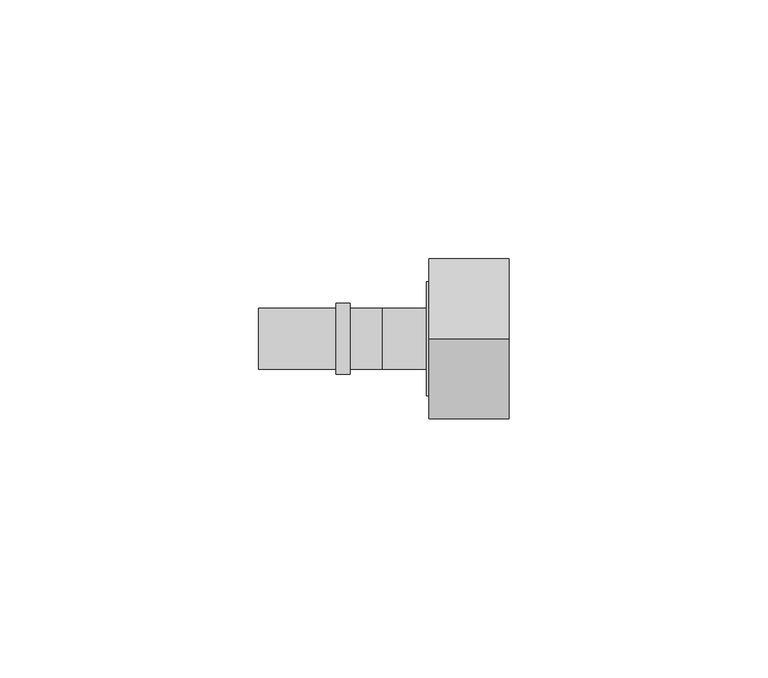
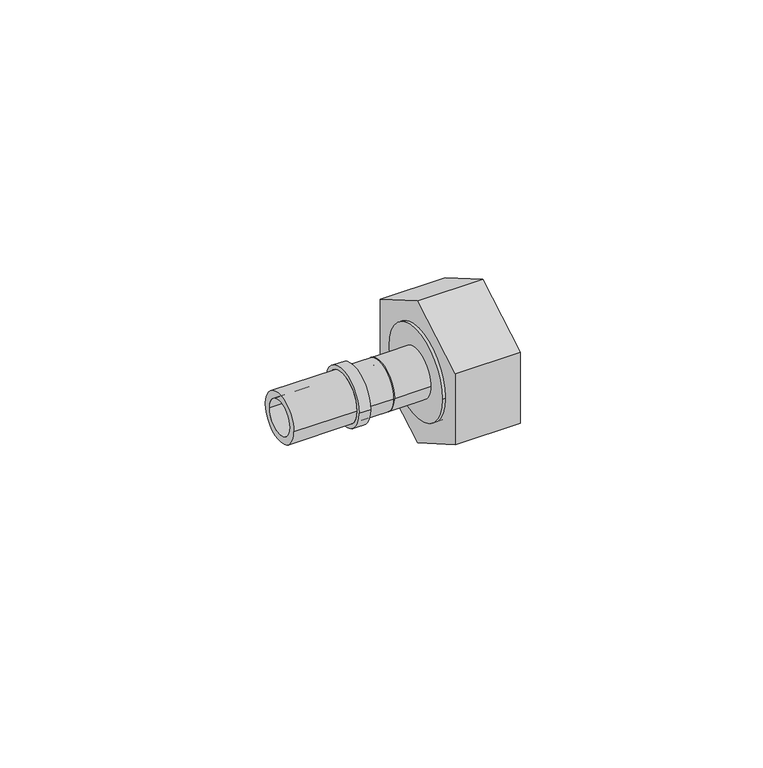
"""IFC4 building model written with IfcOpenShell, lengths in millimetres: pipe fitting geometry, FASTLOC_Adapter with union nut LX : FSL A union nut PL."""

from ifc_helpers import new_model, si_unit, point, frame, origin, origin_2d, place, context, project, spatial, polyline, circle_curve, trimmed, segment, composite_curve, outline, extrude, source, transform, mapped, element, save
from ifc_brep_helpers import plane_surface, cylinder_surface, revolved_surface, advanced_brep


def pipe_fitting_f7503da1(model_context):
    return source(origin(), model_context, "Body", "SolidModel", [
        advanced_brep(
        [(12.0, 5.9, 0.0), (12.0, -5.9, 0.0), (0.0, -5.9, 0.0), (0.0, 5.9, 0.0), (14.0, 10.0, 0.0), (14.0, -10.0, 0.0), (12.0, -10.0, 0.0), (12.0, 10.0, 0.0), (1.4730817, 4.15, 0.0), (1.4730817, -4.15, 0.0), (14.0, -4.15, 0.0), (14.0, 4.15, 0.0), (0.0, 1.9764556, 0.0), (0.0, -1.9764556, 0.0), (1.4730817, -1.9764556, 0.0), (1.4730817, 1.9764556, 0.0)],
        [
            (0, 1, circle_curve(frame((12.0, 0.0, 0.0), z_axis=(-1.0, 0.0, 0.0), x_axis=(0.0, -1.0, 0.0)), 5.9)),
            (1, 2),
            (2, 3, circle_curve(frame((0.0, 0.0, 0.0), z_axis=(1.0, 0.0, 0.0), x_axis=(0.0, -1.0, 0.0)), 5.9)),
            (3, 0),
            (4, 5, circle_curve(frame((14.0, 0.0, 0.0), z_axis=(-1.0, 0.0, 0.0), x_axis=(0.0, -1.0, 0.0)), 10.0)),
            (5, 6),
            (6, 7, circle_curve(frame((12.0, 0.0, 0.0), z_axis=(1.0, 0.0, 0.0), x_axis=(0.0, -1.0, 0.0)), 10.0)),
            (7, 4),
            (8, 9, circle_curve(frame((1.4730817, 0.0, 0.0), z_axis=(-1.0, 0.0, 0.0), x_axis=(0.0, -1.0, 0.0)), 4.15)),
            (9, 10),
            (10, 11, circle_curve(frame((14.0, 0.0, 0.0), z_axis=(1.0, 0.0, 0.0), x_axis=(0.0, -1.0, 0.0)), 4.15)),
            (11, 8),
            (12, 13, circle_curve(frame((0.0, 0.0, 0.0), z_axis=(-1.0, 0.0, 0.0), x_axis=(0.0, -1.0, 0.0)), 1.9764556)),
            (13, 14),
            (14, 15, circle_curve(frame((1.4730817, 0.0, 0.0), z_axis=(1.0, 0.0, 0.0), x_axis=(0.0, -1.0, 0.0)), 1.9764556)),
            (15, 12),
            (2, 3, circle_curve(frame((0.0, 0.0, 0.0), z_axis=(-1.0, 0.0, 0.0), x_axis=(0.0, 1.0, 0.0)), 5.9)),
            (12, 13, circle_curve(frame((0.0, 0.0, 0.0), z_axis=(1.0, 0.0, 0.0), x_axis=(0.0, 1.0, 0.0)), 1.9764556)),
            (1, 0, circle_curve(frame((12.0, 0.0, 0.0), z_axis=(-1.0, 0.0, 0.0), x_axis=(0.0, 1.0, 0.0)), 5.9)),
            (6, 7, circle_curve(frame((12.0, 0.0, 0.0), z_axis=(-1.0, 0.0, 0.0), x_axis=(0.0, 1.0, 0.0)), 10.0)),
            (5, 4, circle_curve(frame((14.0, 0.0, 0.0), z_axis=(-1.0, 0.0, 0.0), x_axis=(0.0, 1.0, 0.0)), 10.0)),
            (10, 11, circle_curve(frame((14.0, 0.0, 0.0), z_axis=(-1.0, 0.0, 0.0), x_axis=(0.0, 1.0, 0.0)), 4.15)),
            (9, 8, circle_curve(frame((1.4730817, 0.0, 0.0), z_axis=(-1.0, 0.0, 0.0), x_axis=(0.0, 1.0, 0.0)), 4.15)),
            (14, 15, circle_curve(frame((1.4730817, 0.0, 0.0), z_axis=(-1.0, 0.0, 0.0), x_axis=(0.0, 1.0, 0.0)), 1.9764556)),
        ],
        [
            cylinder_surface(frame((0.0, 0.0, 0.0), z_axis=(1.0, 0.0, 0.0), x_axis=(0.0, -1.0, 0.0)), 5.9),
            cylinder_surface(frame((0.0, 0.0, 0.0), z_axis=(1.0, 0.0, 0.0), x_axis=(0.0, -1.0, 0.0)), 10.0),
            revolved_surface(polyline([(14.0, -4.15, 0.0), (1.4730817, -4.15, 0.0)]), (0.0, 0.0, 0.0), (1.0, 0.0, 0.0)),
            revolved_surface(polyline([(1.4730817, -1.9764556, 0.0), (0.0, -1.9764556, 0.0)]), (0.0, 0.0, 0.0), (1.0, 0.0, 0.0)),
            plane_surface(frame((0.0, 0.0, 0.0), z_axis=(-1.0, 0.0, 0.0), x_axis=(0.0, 1.0, 0.0))),
            cylinder_surface(frame((0.0, 0.0, 0.0), z_axis=(1.0, 0.0, 0.0), x_axis=(0.0, 1.0, 0.0)), 5.9),
            plane_surface(frame((12.0, 0.0, 0.0), z_axis=(-1.0, 0.0, 0.0), x_axis=(0.0, 1.0, 0.0))),
            cylinder_surface(frame((0.0, 0.0, 0.0), z_axis=(1.0, 0.0, 0.0), x_axis=(0.0, 1.0, 0.0)), 10.0),
            plane_surface(frame((14.0, 0.0, 0.0), z_axis=(1.0, 0.0, 0.0), x_axis=(0.0, 1.0, 0.0))),
            revolved_surface(polyline([(14.0, 4.15, 0.0), (1.4730817, 4.15, 0.0)]), (0.0, 0.0, 0.0), (1.0, 0.0, 0.0)),
            plane_surface(frame((1.4730817, 0.0, 0.0), z_axis=(1.0, 0.0, 0.0), x_axis=(0.0, 1.0, 0.0))),
            revolved_surface(polyline([(1.4730817, 1.9764556, 0.0), (0.0, 1.9764556, 0.0)]), (0.0, 0.0, 0.0), (1.0, 0.0, 0.0)),
        ],
        [
            (0, [[1, 2, 3, 4]]),
            (1, [[5, 6, 7, 8]]),
            (2, [[9, 10, 11, 12]]),
            (3, [[13, 14, 15, 16]]),
            (4, [[17, -3], [18, -13]]),
            (5, [[19, -4, -17, -2]]),
            (6, [[20, -7], [-19, -1]]),
            (7, [[21, -8, -20, -6]]),
            (8, [[-21, -5], [22, -11]]),
            (9, [[23, -12, -22, -10]]),
            (10, [[-23, -9], [24, -15]]),
            (11, [[-18, -16, -24, -14]]),
        ],
    ),
        advanced_brep(
        [(24.5, 11.05, 0.0), (24.5, -11.05, 0.0), (8.5, -11.05, 0.0), (8.5, 11.05, 0.0), (12.0, 8.15, 0.0), (12.0, -8.15, 0.0), (24.5, -8.15, 0.0), (24.5, 8.15, 0.0), (8.5, 4.65, 0.0), (8.5, -4.65, 0.0), (12.0, -4.65, 0.0), (12.0, 4.65, 0.0)],
        [
            (0, 1, circle_curve(frame((24.5, 0.0, 0.0), z_axis=(-1.0, 0.0, 0.0), x_axis=(0.0, -1.0, 0.0)), 11.05)),
            (1, 2),
            (2, 3, circle_curve(frame((8.5, 0.0, 0.0), z_axis=(1.0, 0.0, 0.0), x_axis=(0.0, -1.0, 0.0)), 11.05)),
            (3, 0),
            (4, 5, circle_curve(frame((12.0, 0.0, 0.0), z_axis=(-1.0, 0.0, 0.0), x_axis=(0.0, -1.0, 0.0)), 8.15)),
            (5, 6),
            (6, 7, circle_curve(frame((24.5, 0.0, 0.0), z_axis=(1.0, 0.0, 0.0), x_axis=(0.0, -1.0, 0.0)), 8.15)),
            (7, 4),
            (8, 9, circle_curve(frame((8.5, 0.0, 0.0), z_axis=(-1.0, 0.0, 0.0), x_axis=(0.0, -1.0, 0.0)), 4.65)),
            (9, 10),
            (10, 11, circle_curve(frame((12.0, 0.0, 0.0), z_axis=(1.0, 0.0, 0.0), x_axis=(0.0, -1.0, 0.0)), 4.65)),
            (11, 8),
            (1, 0, circle_curve(frame((24.5, 0.0, 0.0), z_axis=(-1.0, 0.0, 0.0), x_axis=(0.0, 1.0, 0.0)), 11.05)),
            (3, 2, circle_curve(frame((8.5, 0.0, 0.0), z_axis=(1.0, 0.0, 0.0), x_axis=(0.0, 1.0, 0.0)), 11.05)),
            (6, 7, circle_curve(frame((24.5, 0.0, 0.0), z_axis=(-1.0, 0.0, 0.0), x_axis=(0.0, 1.0, 0.0)), 8.15)),
            (5, 4, circle_curve(frame((12.0, 0.0, 0.0), z_axis=(-1.0, 0.0, 0.0), x_axis=(0.0, 1.0, 0.0)), 8.15)),
            (10, 11, circle_curve(frame((12.0, 0.0, 0.0), z_axis=(-1.0, 0.0, 0.0), x_axis=(0.0, 1.0, 0.0)), 4.65)),
            (9, 8, circle_curve(frame((8.5, 0.0, 0.0), z_axis=(-1.0, 0.0, 0.0), x_axis=(0.0, 1.0, 0.0)), 4.65)),
        ],
        [
            cylinder_surface(frame((0.0, 0.0, 0.0), z_axis=(1.0, 0.0, 0.0), x_axis=(0.0, -1.0, 0.0)), 11.05),
            revolved_surface(polyline([(24.5, -8.15, 0.0), (12.0, -8.15, 0.0)]), (0.0, 0.0, 0.0), (1.0, 0.0, 0.0)),
            revolved_surface(polyline([(12.0, -4.65, 0.0), (8.5, -4.65, 0.0)]), (0.0, 0.0, 0.0), (1.0, 0.0, 0.0)),
            cylinder_surface(frame((0.0, 0.0, 0.0), z_axis=(1.0, 0.0, 0.0), x_axis=(0.0, 1.0, 0.0)), 11.05),
            plane_surface(frame((24.5, 0.0, 0.0), z_axis=(1.0, 0.0, 0.0), x_axis=(0.0, 1.0, 0.0))),
            revolved_surface(polyline([(24.5, 8.15, 0.0), (12.0, 8.15, 0.0)]), (0.0, 0.0, 0.0), (1.0, 0.0, 0.0)),
            plane_surface(frame((12.0, 0.0, 0.0), z_axis=(1.0, 0.0, 0.0), x_axis=(0.0, 1.0, 0.0))),
            revolved_surface(polyline([(12.0, 4.65, 0.0), (8.5, 4.65, 0.0)]), (0.0, 0.0, 0.0), (1.0, 0.0, 0.0)),
            plane_surface(frame((8.5, 0.0, 0.0), z_axis=(-1.0, 0.0, 0.0), x_axis=(0.0, 1.0, 0.0))),
        ],
        [
            (0, [[1, 2, 3, 4]]),
            (1, [[5, 6, 7, 8]]),
            (2, [[9, 10, 11, 12]]),
            (3, [[13, -4, 14, -2]]),
            (4, [[-13, -1], [15, -7]]),
            (5, [[16, -8, -15, -6]]),
            (6, [[-16, -5], [17, -11]]),
            (7, [[18, -12, -17, -10]]),
            (8, [[-14, -3], [-18, -9]]),
        ],
    ),
        extrude(outline(polyline([(0.0, -17.8978583), (-15.5, -8.9489292), (-15.5, 8.9489292), (0.0, 17.8978583), (15.5, 8.9489292), (15.5, -8.9489292), (0.0, -17.8978583)]), holes=[composite_curve([segment(trimmed(circle_curve(origin_2d(), 8.15), [point((-8.15, 0.0))], [point((8.15, 0.0))], True, "CARTESIAN"), True, "CONTINUOUS"), segment(trimmed(circle_curve(origin_2d(), 8.15), [point((8.15, 0.0))], [point((-8.15, 0.0))], True, "CARTESIAN"), True, "CONTINUOUS")], self_intersect=False)]), frame((9.0, 0.0, 0.0), z_axis=(1.0, 0.0, 0.0), x_axis=(0.0, 1.0, 0.0)), (0.0, 0.0, 1.0), 15.5),
        advanced_brep(
        [(-9.0, 5.9, 0.0), (-9.0, -5.9, 0.0), (-24.0, -5.9, 0.0), (-24.0, 5.9, 0.0), (-6.3, 6.9, 0.0), (-6.3, -6.9, 0.0), (-9.0, -6.9, 0.0), (-9.0, 6.9, 0.0), (0.0, 5.9, 0.0), (0.0, -5.9, 0.0), (-6.3, -5.9, 0.0), (-6.3, 5.9, 0.0), (-24.0, 4.15, 0.0), (-24.0, -4.15, 0.0), (0.0, -4.15, 0.0), (0.0, 4.15, 0.0)],
        [
            (0, 1, circle_curve(frame((-9.0, 0.0, 0.0), z_axis=(-1.0, 0.0, 0.0), x_axis=(0.0, -1.0, 0.0)), 5.9)),
            (1, 2),
            (2, 3, circle_curve(frame((-24.0, 0.0, 0.0), z_axis=(1.0, 0.0, 0.0), x_axis=(0.0, -1.0, 0.0)), 5.9)),
            (3, 0),
            (4, 5, circle_curve(frame((-6.3, 0.0, 0.0), z_axis=(-1.0, 0.0, 0.0), x_axis=(0.0, -1.0, 0.0)), 6.9)),
            (5, 6),
            (6, 7, circle_curve(frame((-9.0, 0.0, 0.0), z_axis=(1.0, 0.0, 0.0), x_axis=(0.0, -1.0, 0.0)), 6.9)),
            (7, 4),
            (8, 9, circle_curve(frame((0.0, 0.0, 0.0), z_axis=(-1.0, 0.0, 0.0), x_axis=(0.0, -1.0, 0.0)), 5.9)),
            (9, 10),
            (10, 11, circle_curve(frame((-6.3, 0.0, 0.0), z_axis=(1.0, 0.0, 0.0), x_axis=(0.0, -1.0, 0.0)), 5.9)),
            (11, 8),
            (12, 13, circle_curve(frame((-24.0, 0.0, 0.0), z_axis=(-1.0, 0.0, 0.0), x_axis=(0.0, -1.0, 0.0)), 4.15)),
            (13, 14),
            (14, 15, circle_curve(frame((0.0, 0.0, 0.0), z_axis=(1.0, 0.0, 0.0), x_axis=(0.0, -1.0, 0.0)), 4.15)),
            (15, 12),
            (2, 3, circle_curve(frame((-24.0, 0.0, 0.0), z_axis=(-1.0, 0.0, 0.0), x_axis=(0.0, 1.0, 0.0)), 5.9)),
            (12, 13, circle_curve(frame((-24.0, 0.0, 0.0), z_axis=(1.0, 0.0, 0.0), x_axis=(0.0, 1.0, 0.0)), 4.15)),
            (1, 0, circle_curve(frame((-9.0, 0.0, 0.0), z_axis=(-1.0, 0.0, 0.0), x_axis=(0.0, 1.0, 0.0)), 5.9)),
            (6, 7, circle_curve(frame((-9.0, 0.0, 0.0), z_axis=(-1.0, 0.0, 0.0), x_axis=(0.0, 1.0, 0.0)), 6.9)),
            (5, 4, circle_curve(frame((-6.3, 0.0, 0.0), z_axis=(-1.0, 0.0, 0.0), x_axis=(0.0, 1.0, 0.0)), 6.9)),
            (10, 11, circle_curve(frame((-6.3, 0.0, 0.0), z_axis=(-1.0, 0.0, 0.0), x_axis=(0.0, 1.0, 0.0)), 5.9)),
            (9, 8, circle_curve(frame((0.0, 0.0, 0.0), z_axis=(-1.0, 0.0, 0.0), x_axis=(0.0, 1.0, 0.0)), 5.9)),
            (14, 15, circle_curve(frame((0.0, 0.0, 0.0), z_axis=(-1.0, 0.0, 0.0), x_axis=(0.0, 1.0, 0.0)), 4.15)),
        ],
        [
            cylinder_surface(frame((0.0, 0.0, 0.0), z_axis=(1.0, 0.0, 0.0), x_axis=(0.0, -1.0, 0.0)), 5.9),
            cylinder_surface(frame((0.0, 0.0, 0.0), z_axis=(1.0, 0.0, 0.0), x_axis=(0.0, -1.0, 0.0)), 6.9),
            revolved_surface(polyline([(0.0, -4.15, 0.0), (-24.0, -4.15, 0.0)]), (0.0, 0.0, 0.0), (1.0, 0.0, 0.0)),
            plane_surface(frame((-24.0, 0.0, 0.0), z_axis=(-1.0, 0.0, 0.0), x_axis=(0.0, 1.0, 0.0))),
            cylinder_surface(frame((0.0, 0.0, 0.0), z_axis=(1.0, 0.0, 0.0), x_axis=(0.0, 1.0, 0.0)), 5.9),
            plane_surface(frame((-9.0, 0.0, 0.0), z_axis=(-1.0, 0.0, 0.0), x_axis=(0.0, 1.0, 0.0))),
            cylinder_surface(frame((0.0, 0.0, 0.0), z_axis=(1.0, 0.0, 0.0), x_axis=(0.0, 1.0, 0.0)), 6.9),
            plane_surface(frame((-6.3, 0.0, 0.0), z_axis=(1.0, 0.0, 0.0), x_axis=(0.0, 1.0, 0.0))),
            plane_surface(frame((0.0, 0.0, 0.0), z_axis=(1.0, 0.0, 0.0), x_axis=(0.0, 1.0, 0.0))),
            revolved_surface(polyline([(0.0, 4.15, 0.0), (-24.0, 4.15, 0.0)]), (0.0, 0.0, 0.0), (1.0, 0.0, 0.0)),
        ],
        [
            (0, [[1, 2, 3, 4]]),
            (1, [[5, 6, 7, 8]]),
            (0, [[9, 10, 11, 12]]),
            (2, [[13, 14, 15, 16]]),
            (3, [[17, -3], [18, -13]]),
            (4, [[19, -4, -17, -2]]),
            (5, [[20, -7], [-19, -1]]),
            (6, [[21, -8, -20, -6]]),
            (7, [[-21, -5], [22, -11]]),
            (4, [[23, -12, -22, -10]]),
            (8, [[-23, -9], [24, -15]]),
            (9, [[-18, -16, -24, -14]]),
        ],
    ),
    ])


if __name__ == "__main__":
    model = new_model("IFC4")
    model_context = context("Model", 3, world=origin())
    ifc_project = project(units=[si_unit("LENGTHUNIT", "METRE", prefix="MILLI")], contexts=[model_context])
    site = spatial("IfcSite", under=ifc_project)
    building = spatial("IfcBuilding", under=site)
    placement = place(None, origin())
    pipe_fitting_shape = pipe_fitting_f7503da1(model_context)
    element("IfcPipeFitting", 1, ObjectType="FASTLOC_Adapter with union nut LX : FSL A union nut PL", at=placement, inside=building, context=model_context, shape_type="MappedRepresentation", body=[
        mapped(pipe_fitting_shape, transform((0.0, 0.0, 0.0), x_axis=(1.0, 0.0, 0.0), y_axis=(0.0, 1.0, 0.0), z_axis=(0.0, 0.0, 1.0))),
    ])
    save(model, "model.ifc")
